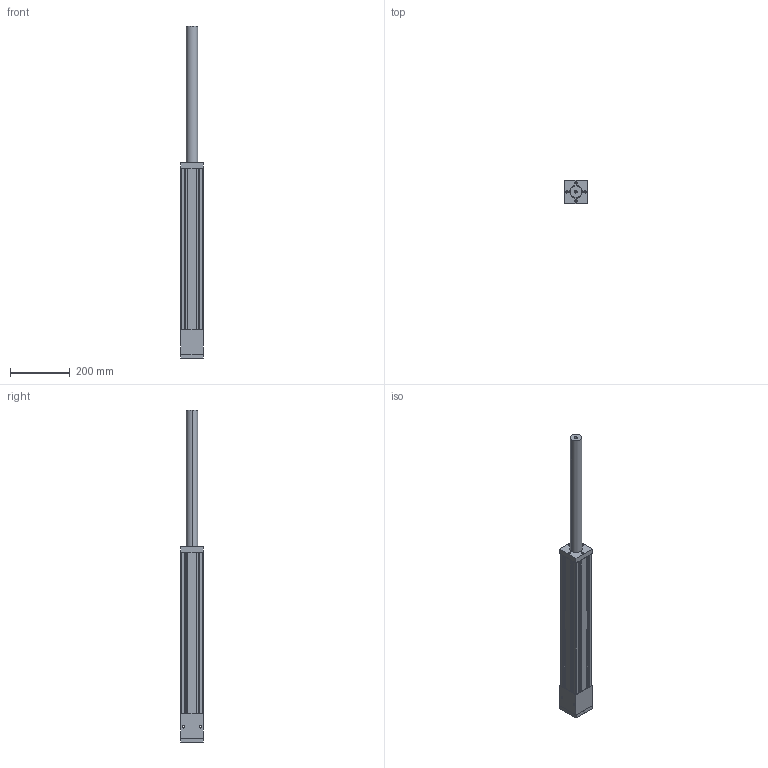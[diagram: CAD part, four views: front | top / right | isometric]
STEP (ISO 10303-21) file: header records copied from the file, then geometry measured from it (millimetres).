
FILE_DESCRIPTION (( 'STEP AP203' ), '1' );
FILE_NAME ('SS18.STEP', '2010-06-02T19:02:15', ( 'render' ), ( '' ), 'SwSTEP 2.0', 'SolidWorks 2009', '' );
FILE_SCHEMA (( 'CONFIG_CONTROL_DESIGN' ));
Length unit declared in the file: millimetre
Products named in the file (5): SS18; SS-18-front block; SS18-body; SS-back block; SS-76 mounting plate for 60mm servo 
Assembly tree (4 placements, depth 2):
  SS18
    SS18-body
    SS-18-front block
    SS-76 mounting plate for 60mm servo 
    SS-back block
Bounding box: 76.2 x 76.2 x 1111.25 mm (x, y, z)
Volume: 2353126.5 mm3; surface area: 583492.8 mm2
Topology: 4 solids, 4 shells, 309 faces, 834 edges, 541 vertices
Faces by surface type: cylinder 176, plane 115, cone 18
Entity records: 10387 total; most frequent: CARTESIAN_POINT 1799, DIRECTION 1792, ORIENTED_EDGE 1632, EDGE_CURVE 816, AXIS2_PLACEMENT_3D 664, VERTEX_POINT 541, LINE 464, VECTOR 464
